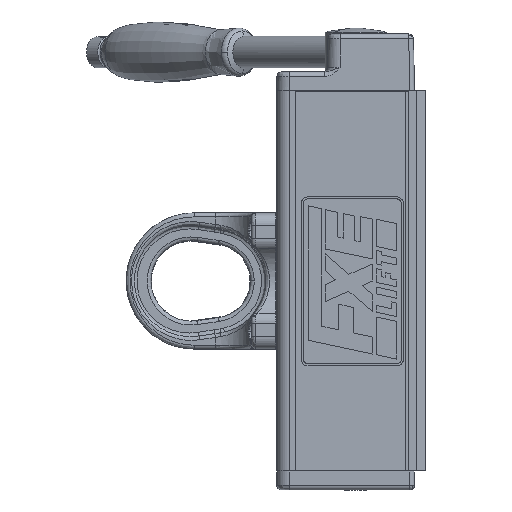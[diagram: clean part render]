
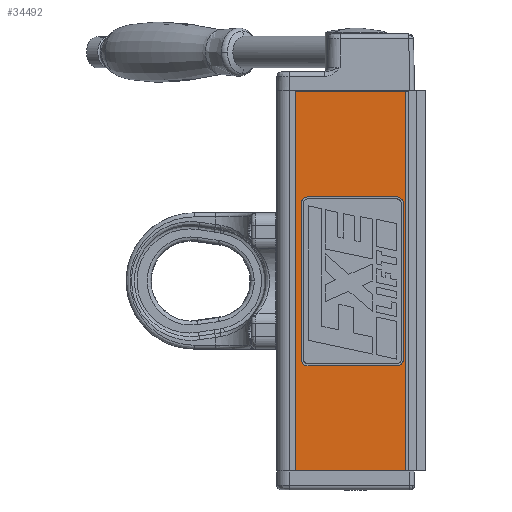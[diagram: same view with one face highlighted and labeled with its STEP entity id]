
A CAD part, left-side view. The second image highlights one B-rep face of the part: STEP entity #34492.
In plain terms, the highlighted planar face has unit normal (-1, 0, 0).
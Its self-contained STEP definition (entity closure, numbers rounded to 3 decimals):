
#177 = VERTEX_POINT ( 'NONE', #31776 ) ;
#309 = ORIENTED_EDGE ( 'NONE', *, *, #62259, .T. ) ;
#407 = LINE ( 'NONE', #39684, #42622 ) ;
#509 = EDGE_LOOP ( 'NONE', ( #59325, #26083, #33110, #53195 ) ) ;
#673 = CARTESIAN_POINT ( 'NONE',  ( -55.5, 30.157, 53.125 ) ) ;
#816 = CARTESIAN_POINT ( 'NONE',  ( -55.5, 30.157, 53.125 ) ) ;
#1019 = CARTESIAN_POINT ( 'NONE',  ( -55.5, 34.45, 49.105 ) ) ;
#1300 = B_SPLINE_CURVE_WITH_KNOTS ( 'NONE', 3,
 ( #32347, #27005, #58244, #673 ),
 .UNSPECIFIED., .F., .F.,
 ( 4, 4 ),
 ( 1., 2. ),
 .UNSPECIFIED. ) ;
#1721 = ORIENTED_EDGE ( 'NONE', *, *, #32364, .T. ) ;
#2936 = CARTESIAN_POINT ( 'NONE',  ( -55.5, -29.95, 49.105 ) ) ;
#3236 = VERTEX_POINT ( 'NONE', #47318 ) ;
#3455 = EDGE_CURVE ( 'NONE', #54844, #56603, #13170, .T. ) ;
#4108 = FACE_BOUND ( 'NONE', #43020, .T. ) ;
#4747 = EDGE_CURVE ( 'NONE', #55703, #21285, #11352, .T. ) ;
#5602 = CARTESIAN_POINT ( 'NONE',  ( -55.5, -33.5, 119.5 ) ) ;
#6342 = CARTESIAN_POINT ( 'NONE',  ( -55.5, 2.25, 53.125 ) ) ;
#7251 = DIRECTION ( 'NONE',  ( 0., -1., 0. ) ) ;
#7409 = FACE_OUTER_BOUND ( 'NONE', #509, .T. ) ;
#7412 = CARTESIAN_POINT ( 'NONE',  ( -55.5, -29.95, -51.815 ) ) ;
#7791 = ORIENTED_EDGE ( 'NONE', *, *, #63824, .T. ) ;
#8416 = DIRECTION ( 'NONE',  ( 0., 0., -1. ) ) ;
#8873 = LINE ( 'NONE', #6342, #49457 ) ;
#8938 = EDGE_CURVE ( 'NONE', #21285, #31348, #17478, .T. ) ;
#9624 = LINE ( 'NONE', #56965, #11310 ) ;
#11310 = VECTOR ( 'NONE', #35925, 1000. ) ;
#11352 = B_SPLINE_CURVE_WITH_KNOTS ( 'NONE', 3,
 ( #34608, #66025, #29302, #2936 ),
 .UNSPECIFIED., .F., .F.,
 ( 4, 4 ),
 ( 3., 4. ),
 .UNSPECIFIED. ) ;
#13170 = LINE ( 'NONE', #28316, #52020 ) ;
#13385 = EDGE_CURVE ( 'NONE', #54059, #20073, #1300, .T. ) ;
#13987 = CARTESIAN_POINT ( 'NONE',  ( -55.5, 34.45, -49.605 ) ) ;
#14619 = CARTESIAN_POINT ( 'NONE',  ( -55.5, 38., -120. ) ) ;
#14794 = ORIENTED_EDGE ( 'NONE', *, *, #8938, .T. ) ;
#17478 = LINE ( 'NONE', #45432, #31553 ) ;
#17562 = CARTESIAN_POINT ( 'NONE',  ( -55.5, -33.5, -120. ) ) ;
#17569 = VERTEX_POINT ( 'NONE', #22478 ) ;
#18050 = CARTESIAN_POINT ( 'NONE',  ( -55.5, -28.018, -53.625 ) ) ;
#18614 = CARTESIAN_POINT ( 'NONE',  ( -55.5, 30.157, -53.625 ) ) ;
#19016 = EDGE_CURVE ( 'NONE', #46979, #3236, #53022, .T. ) ;
#19074 = VECTOR ( 'NONE', #53791, 1000. ) ;
#19930 = DIRECTION ( 'NONE',  ( 0., 0., -1. ) ) ;
#20073 = VERTEX_POINT ( 'NONE', #816 ) ;
#21285 = VERTEX_POINT ( 'NONE', #54208 ) ;
#22305 = CARTESIAN_POINT ( 'NONE',  ( -55.5, -33.5, -120. ) ) ;
#22478 = CARTESIAN_POINT ( 'NONE',  ( -55.5, 30.157, -53.625 ) ) ;
#25982 = DIRECTION ( 'NONE',  ( 1., 0., 0. ) ) ;
#26083 = ORIENTED_EDGE ( 'NONE', *, *, #43982, .T. ) ;
#27005 = CARTESIAN_POINT ( 'NONE',  ( -55.5, 34.45, 51.316 ) ) ;
#27864 = EDGE_CURVE ( 'NONE', #20073, #55703, #8873, .T. ) ;
#28316 = CARTESIAN_POINT ( 'NONE',  ( -55.5, -33.5, -120. ) ) ;
#29302 = CARTESIAN_POINT ( 'NONE',  ( -55.5, -29.95, 51.315 ) ) ;
#29360 = VERTEX_POINT ( 'NONE', #58198 ) ;
#31348 = VERTEX_POINT ( 'NONE', #65525 ) ;
#31553 = VECTOR ( 'NONE', #8416, 1000. ) ;
#31776 = CARTESIAN_POINT ( 'NONE',  ( -55.5, 34.45, -49.605 ) ) ;
#32347 = CARTESIAN_POINT ( 'NONE',  ( -55.5, 34.45, 49.105 ) ) ;
#32364 = EDGE_CURVE ( 'NONE', #177, #54059, #9624, .T. ) ;
#32442 = B_SPLINE_CURVE_WITH_KNOTS ( 'NONE', 3,
 ( #18614, #66656, #45680, #13987 ),
 .UNSPECIFIED., .F., .F.,
 ( 4, 4 ),
 ( 7., 8. ),
 .UNSPECIFIED. ) ;
#33110 = ORIENTED_EDGE ( 'NONE', *, *, #3455, .T. ) ;
#34492 = ADVANCED_FACE ( 'NONE', ( #7409, #4108 ), #36418, .F. ) ;
#34608 = CARTESIAN_POINT ( 'NONE',  ( -55.5, -25.657, 53.125 ) ) ;
#35050 = CARTESIAN_POINT ( 'NONE',  ( -55.5, -33.5, 119.5 ) ) ;
#35925 = DIRECTION ( 'NONE',  ( 0., 0., 1. ) ) ;
#36418 = PLANE ( 'NONE',  #45739 ) ;
#37304 = VECTOR ( 'NONE', #47927, 1000. ) ;
#39684 = CARTESIAN_POINT ( 'NONE',  ( -55.5, 2.25, -53.625 ) ) ;
#42510 = CARTESIAN_POINT ( 'NONE',  ( -55.5, -25.657, 53.125 ) ) ;
#42622 = VECTOR ( 'NONE', #44775, 1000. ) ;
#43020 = EDGE_LOOP ( 'NONE', ( #7791, #1721, #55495, #48667, #55827, #14794, #43766, #309 ) ) ;
#43766 = ORIENTED_EDGE ( 'NONE', *, *, #50631, .T. ) ;
#43982 = EDGE_CURVE ( 'NONE', #3236, #54844, #53309, .T. ) ;
#44433 = CARTESIAN_POINT ( 'NONE',  ( -55.5, -29.95, -49.605 ) ) ;
#44775 = DIRECTION ( 'NONE',  ( 0., 1., 0. ) ) ;
#44962 = CARTESIAN_POINT ( 'NONE',  ( -55.5, 38., -120. ) ) ;
#45432 = CARTESIAN_POINT ( 'NONE',  ( -55.5, -29.95, -0.25 ) ) ;
#45680 = CARTESIAN_POINT ( 'NONE',  ( -55.5, 34.45, -51.816 ) ) ;
#45739 = AXIS2_PLACEMENT_3D ( 'NONE', #57696, #25982, #62996 ) ;
#46045 = EDGE_CURVE ( 'NONE', #56603, #46979, #47230, .T. ) ;
#46979 = VERTEX_POINT ( 'NONE', #35050 ) ;
#46996 = B_SPLINE_CURVE_WITH_KNOTS ( 'NONE', 3,
 ( #44433, #7412, #18050, #55059 ),
 .UNSPECIFIED., .F., .F.,
 ( 4, 4 ),
 ( 5., 6. ),
 .UNSPECIFIED. ) ;
#47230 = LINE ( 'NONE', #22305, #19074 ) ;
#47318 = CARTESIAN_POINT ( 'NONE',  ( -55.5, 38., 119.5 ) ) ;
#47927 = DIRECTION ( 'NONE',  ( 0., 1., 0. ) ) ;
#48667 = ORIENTED_EDGE ( 'NONE', *, *, #27864, .T. ) ;
#49457 = VECTOR ( 'NONE', #53968, 1000. ) ;
#50631 = EDGE_CURVE ( 'NONE', #31348, #29360, #46996, .T. ) ;
#52020 = VECTOR ( 'NONE', #7251, 1000. ) ;
#53022 = LINE ( 'NONE', #5602, #37304 ) ;
#53195 = ORIENTED_EDGE ( 'NONE', *, *, #46045, .T. ) ;
#53309 = LINE ( 'NONE', #14619, #65667 ) ;
#53791 = DIRECTION ( 'NONE',  ( 0., 0., 1. ) ) ;
#53968 = DIRECTION ( 'NONE',  ( 0., -1., 0. ) ) ;
#54059 = VERTEX_POINT ( 'NONE', #1019 ) ;
#54208 = CARTESIAN_POINT ( 'NONE',  ( -55.5, -29.95, 49.105 ) ) ;
#54844 = VERTEX_POINT ( 'NONE', #44962 ) ;
#55059 = CARTESIAN_POINT ( 'NONE',  ( -55.5, -25.657, -53.625 ) ) ;
#55495 = ORIENTED_EDGE ( 'NONE', *, *, #13385, .T. ) ;
#55703 = VERTEX_POINT ( 'NONE', #42510 ) ;
#55827 = ORIENTED_EDGE ( 'NONE', *, *, #4747, .T. ) ;
#56603 = VERTEX_POINT ( 'NONE', #17562 ) ;
#56965 = CARTESIAN_POINT ( 'NONE',  ( -55.5, 34.45, -0.25 ) ) ;
#57696 = CARTESIAN_POINT ( 'NONE',  ( -55.5, 2.25, -0.25 ) ) ;
#58198 = CARTESIAN_POINT ( 'NONE',  ( -55.5, -25.657, -53.625 ) ) ;
#58244 = CARTESIAN_POINT ( 'NONE',  ( -55.5, 32.517, 53.125 ) ) ;
#59325 = ORIENTED_EDGE ( 'NONE', *, *, #19016, .T. ) ;
#62259 = EDGE_CURVE ( 'NONE', #29360, #17569, #407, .T. ) ;
#62996 = DIRECTION ( 'NONE',  ( 0., 1., 0. ) ) ;
#63824 = EDGE_CURVE ( 'NONE', #17569, #177, #32442, .T. ) ;
#65525 = CARTESIAN_POINT ( 'NONE',  ( -55.5, -29.95, -49.605 ) ) ;
#65667 = VECTOR ( 'NONE', #19930, 1000. ) ;
#66025 = CARTESIAN_POINT ( 'NONE',  ( -55.5, -28.017, 53.125 ) ) ;
#66656 = CARTESIAN_POINT ( 'NONE',  ( -55.5, 32.518, -53.625 ) ) ;
